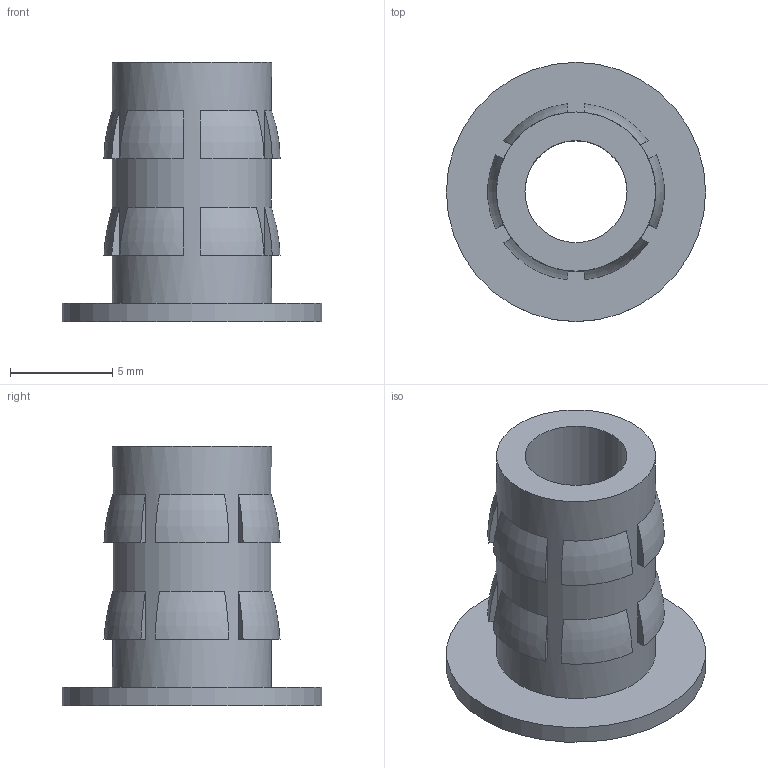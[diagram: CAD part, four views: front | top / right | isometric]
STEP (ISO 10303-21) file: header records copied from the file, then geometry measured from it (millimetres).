
FILE_DESCRIPTION (( 'STEP AP214' ), '1' );
FILE_NAME ('flanged insert M6.STEP', '2017-08-09T04:36:19', ( '微软用户' ), ( '微软中国' ), 'SwSTEP 2.0', 'SolidWorks 2015', '' );
FILE_SCHEMA (( 'AUTOMOTIVE_DESIGN' ));
Length unit declared in the file: millimetre
Products named in the file (1): flanged insert M6
Bounding box: 12.7 x 12.7 x 12.7 mm (x, y, z)
Volume: 432.8 mm3; surface area: 771.3 mm2
Topology: 1 solids, 1 shells, 55 faces, 125 edges, 83 vertices
Faces by surface type: plane 39, torus 12, cylinder 3, cone 1
Full cylindrical faces by diameter (mm): 5 x1, 7.798 x1, 12.7 x1
Entity records: 2191 total; most frequent: CARTESIAN_POINT 358, DIRECTION 246, ORIENTED_EDGE 230, EDGE_CURVE 115, AXIS2_PLACEMENT_3D 99, VERTEX_POINT 79, EDGE_LOOP 74, UNCERTAINTY_MEASURE_WITH_UNIT 58
